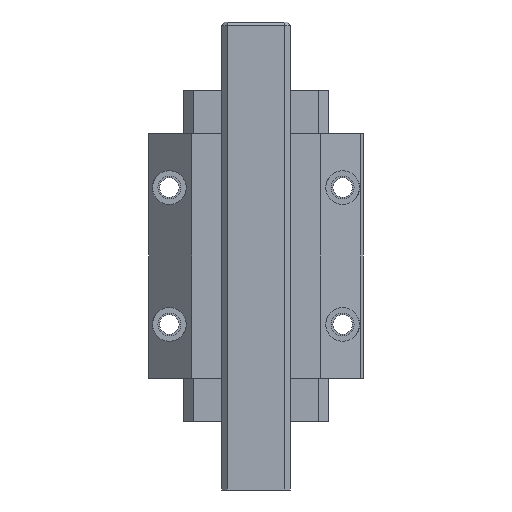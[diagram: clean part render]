
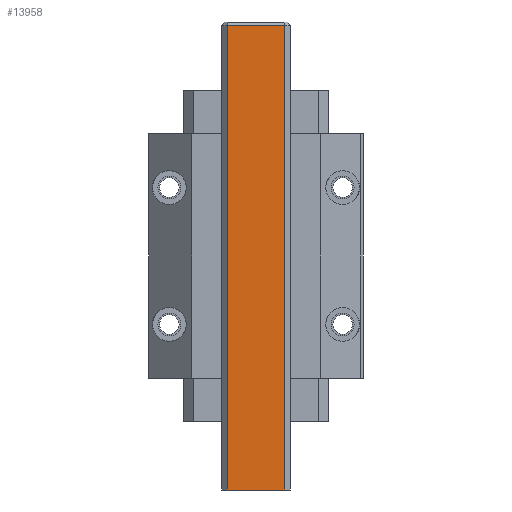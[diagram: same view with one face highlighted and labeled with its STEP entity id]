
A CAD part, front view. The second image highlights one B-rep face of the part: STEP entity #13958.
In plain terms, the highlighted planar face has unit normal (0, -1, 0).
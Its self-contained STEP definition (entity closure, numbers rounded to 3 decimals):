
#12919=DIRECTION('',(1.,0.,0.));
#12920=VECTOR('',#12919,12.6);
#12921=CARTESIAN_POINT('',(-6.3,-9.85,-51.3));
#12922=LINE('',#12921,#12920);
#13192=DIRECTION('',(1.,0.,0.));
#13193=VECTOR('',#13192,12.6);
#13194=CARTESIAN_POINT('',(-6.3,-9.85,50.434));
#13195=LINE('',#13194,#13193);
#13196=DIRECTION('',(0.,0.,1.));
#13197=VECTOR('',#13196,101.734);
#13198=CARTESIAN_POINT('',(-6.3,-9.85,-51.3));
#13199=LINE('',#13198,#13197);
#13204=DIRECTION('',(0.,0.,1.));
#13205=VECTOR('',#13204,101.734);
#13206=CARTESIAN_POINT('',(6.3,-9.85,-51.3));
#13207=LINE('',#13206,#13205);
#13390=CARTESIAN_POINT('',(-6.3,-9.85,-51.3));
#13391=VERTEX_POINT('',#13390);
#13392=CARTESIAN_POINT('',(6.3,-9.85,-51.3));
#13393=VERTEX_POINT('',#13392);
#13454=CARTESIAN_POINT('',(6.3,-9.85,50.434));
#13455=VERTEX_POINT('',#13454);
#13458=CARTESIAN_POINT('',(-6.3,-9.85,50.434));
#13459=VERTEX_POINT('',#13458);
#13946=CARTESIAN_POINT('',(-6.3,-9.85,-51.3));
#13947=DIRECTION('',(0.,-1.,0.));
#13948=DIRECTION('',(1.,0.,0.));
#13949=AXIS2_PLACEMENT_3D('',#13946,#13947,#13948);
#13950=PLANE('',#13949);
#13951=ORIENTED_EDGE('',*,*,#13937,.T.);
#13953=ORIENTED_EDGE('',*,*,#13952,.F.);
#13954=ORIENTED_EDGE('',*,*,#13539,.F.);
#13955=ORIENTED_EDGE('',*,*,#13912,.T.);
#13956=EDGE_LOOP('',(#13951,#13953,#13954,#13955));
#13957=FACE_OUTER_BOUND('',#13956,.F.);
#13539=EDGE_CURVE('',#13391,#13393,#12922,.T.);
#13912=EDGE_CURVE('',#13391,#13459,#13199,.T.);
#13937=EDGE_CURVE('',#13459,#13455,#13195,.T.);
#13952=EDGE_CURVE('',#13393,#13455,#13207,.T.);
#13958=ADVANCED_FACE('',(#13957),#13950,.T.);
